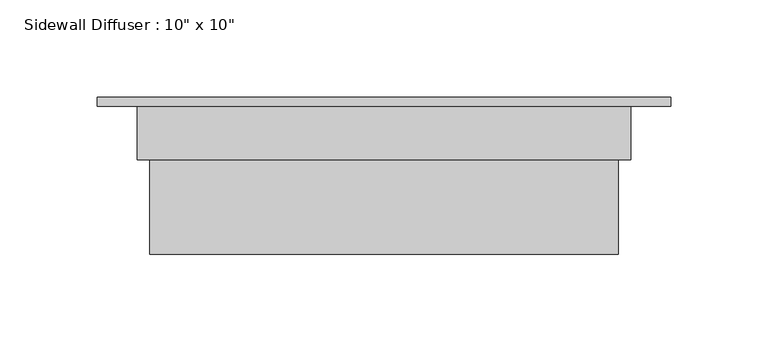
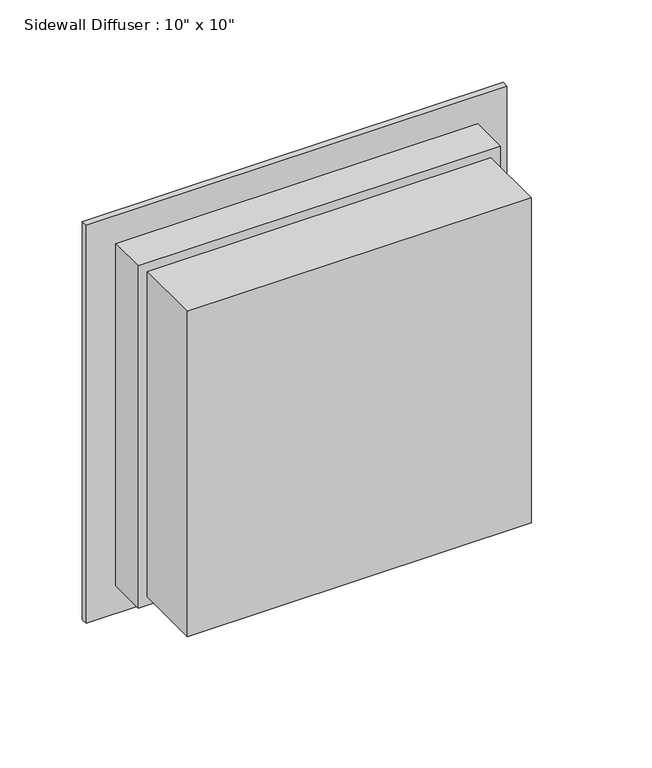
"""IFC4 building model written with IfcOpenShell, lengths in millimetres: air terminal geometry."""

from ifc_helpers import new_model, si_unit, frame, origin, place, context, project, spatial, polyline, outline, extrude, faceted_brep, source, transform, mapped, element, save


def air_terminal_0139ce82(model_context):
    return source(origin(), model_context, "Body", "SolidModel", [
        faceted_brep([(-127.0, 0.0, 127.0), (127.0, 0.0, 127.0), (127.0, 0.0, -127.0), (-127.0, 0.0, -127.0), (-127.0, -27.384375, 127.0), (-127.0, -27.384375, -127.0), (127.0, -27.384375, -127.0), (127.0, -27.384375, 127.0), (-120.65, -27.384375, 120.65), (120.65, -27.384375, 120.65), (120.65, -27.384375, -120.65), (-120.65, -27.384375, -120.65), (-120.65, -76.2, 120.65), (-120.65, -76.2, -120.65), (120.65, -76.2, -120.65), (120.65, -76.2, 120.65)], [[[0, 1, 2, 3]], [[4, 5, 6, 7], [8, 9, 10, 11]], [[3, 5, 4, 0]], [[2, 6, 5, 3]], [[1, 7, 6, 2]], [[0, 4, 7, 1]], [[12, 13, 14, 15]], [[12, 8, 11, 13]], [[13, 11, 10, 14]], [[14, 10, 9, 15]], [[15, 9, 8, 12]]]),
        extrude(outline(polyline([(147.6375, 4.7625), (147.6375, 0.0), (-147.6375, 0.0), (-147.6375, 4.7625), (147.6375, 4.7625)])), frame((0.0, 0.0, -147.6375), z_axis=(0.0, 0.0, 1.0), x_axis=(1.0, 0.0, 0.0)), (0.0, 0.0, 1.0), 295.275),
    ])


if __name__ == "__main__":
    model = new_model("IFC4")
    model_context = context("Model", 3, world=origin())
    ifc_project = project(units=[si_unit("LENGTHUNIT", "METRE", prefix="MILLI")], contexts=[model_context])
    site = spatial("IfcSite", under=ifc_project)
    building = spatial("IfcBuilding", under=site)
    placement = place(None, origin())
    air_terminal_shape = air_terminal_0139ce82(model_context)
    element("IfcAirTerminal", 1, ObjectType="Sidewall Diffuser : 10\" x 10\"", at=placement, inside=building, context=model_context, shape_type="MappedRepresentation", body=[
        mapped(air_terminal_shape, transform((0.0, 0.0, 0.0), x_axis=(1.0, 0.0, 0.0), y_axis=(0.0, 1.0, 0.0), z_axis=(0.0, 0.0, 1.0))),
    ])
    save(model, "model.ifc")
